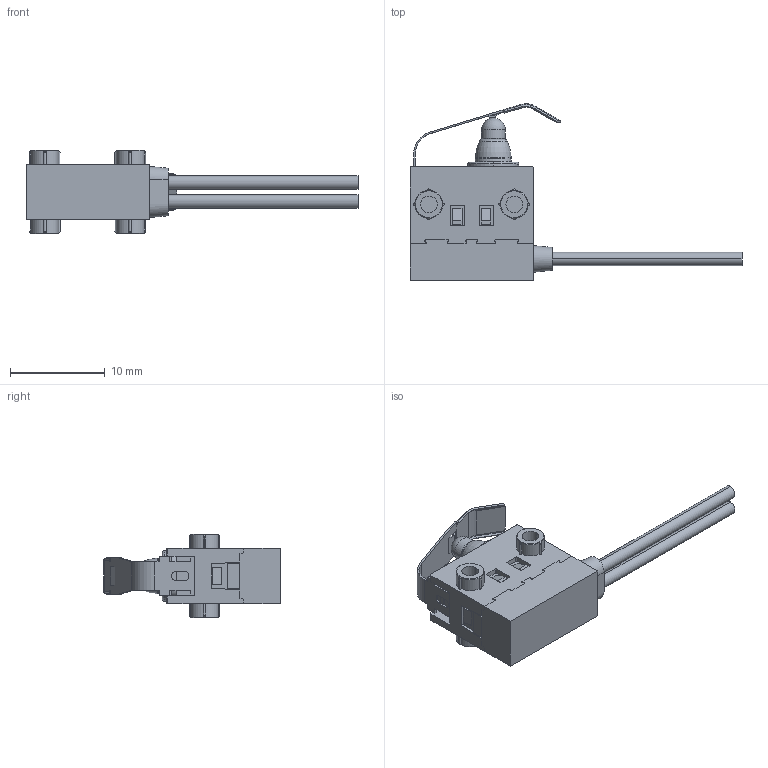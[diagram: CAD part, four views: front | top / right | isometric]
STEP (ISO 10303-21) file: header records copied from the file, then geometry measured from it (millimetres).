
FILE_DESCRIPTION (( 'STEP AP214' ), '1' );
FILE_NAME ('SPVQ350800.STEP', '2011-03-22T00:37:28', ( '' ), ( '' ), 'SwSTEP 2.0', 'SolidWorks 2007', '' );
FILE_SCHEMA (( 'AUTOMOTIVE_DESIGN' ));
Length unit declared in the file: millimetre
Products named in the file (1): SPVQ350800
Bounding box: 35 x 18.6 x 8.8 mm (x, y, z)
Volume: 1028.6 mm3; surface area: 1582.7 mm2
Topology: 1 solids, 1 shells, 481 faces, 1353 edges, 871 vertices
Faces by surface type: plane 260, cylinder 168, torus 22, cone 21, bspline 8, sphere 2
Entity records: 21113 total; most frequent: CARTESIAN_POINT 3220, ORIENTED_EDGE 2698, DIRECTION 2619, EDGE_CURVE 1349, VECTOR 915, LINE 915, VERTEX_POINT 869, AXIS2_PLACEMENT_3D 852
